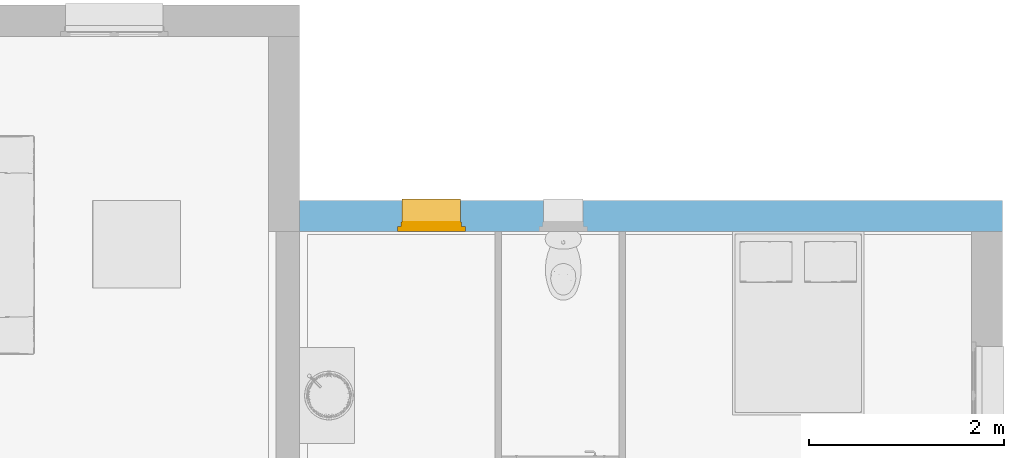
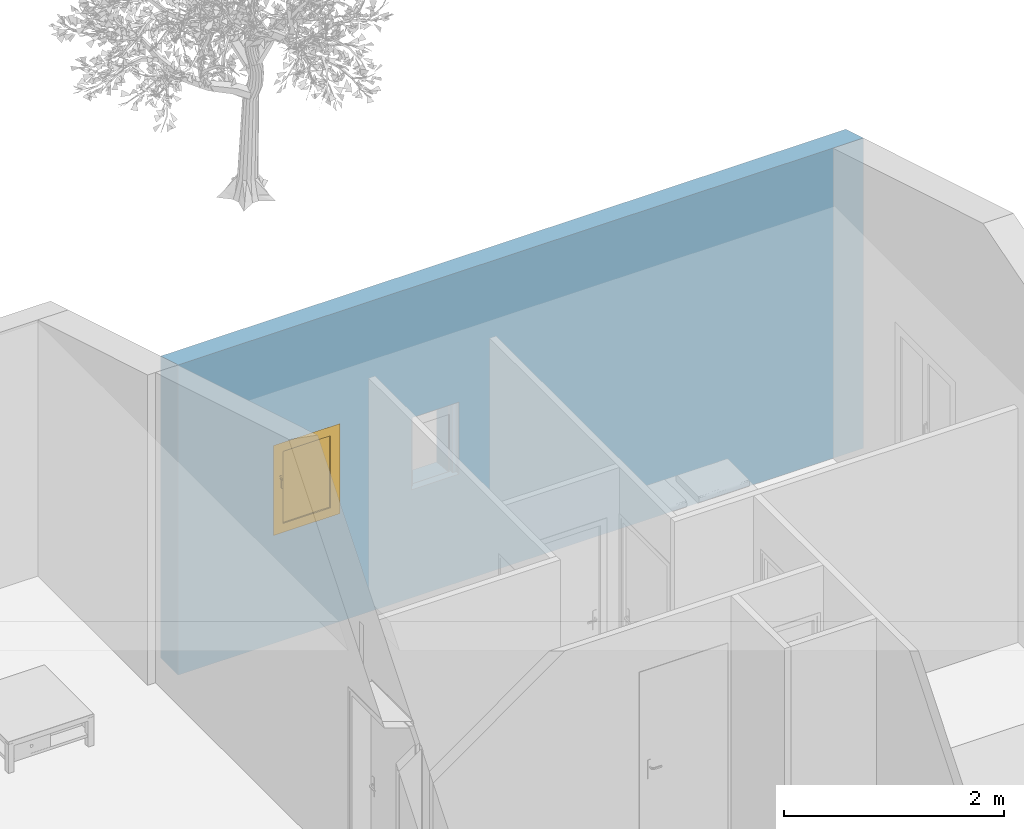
# One storey, part 13 of 18: 1 window, 2 openings, plus 1 element that does not belong to this part.
"""IFC2X3 building model written with IfcOpenShell, lengths in metres."""

import ifcopenshell
import ifcopenshell.guid

model = None  # the IFC model being written
_history = None  # IfcOwnerHistory: only IFC2X3 demands one
_inside = {}  # id of a spatial element -> (the spatial element, [elements in it])
_under = {}  # id of a project, library or spatial element -> (it, [spatial elements below it])
_declared = {}  # id of a project -> (the project, [libraries it declares])
_typed = {}  # id of a type object -> (the type object, [elements of that type])
_made_of = {}  # id of a material, layer set ... -> (it, [elements and type objects made of it])


def new_model(schema):
    """Start an empty IFC model of exactly this schema.

    Asked for "IFC4X3", IfcOpenShell would pick the latest addendum, in which some entities
    have other attributes; the version numbers below select the first issue.
    IFC2X3 requires an IfcOwnerHistory on every rooted entity: one is made here for all.
    """
    global model, _history
    if schema == "IFC4X3":
        model = ifcopenshell.file(schema_version=(4, 3, 0, 0))
    else:
        model = ifcopenshell.file(schema=schema)
    _inside.clear()
    _under.clear()
    _declared.clear()
    _typed.clear()
    _made_of.clear()
    _history = None
    if model.schema == "IFC2X3":
        org = make("IfcOrganization", Name="unknown")
        user = make(
            "IfcPersonAndOrganization",
            ThePerson=make("IfcPerson", FamilyName="unknown"),
            TheOrganization=org,
        )
        app = make(
            "IfcApplication",
            ApplicationDeveloper=org,
            Version="unknown",
            ApplicationFullName="unknown",
            ApplicationIdentifier="unknown",
        )
        _history = make(
            "IfcOwnerHistory",
            OwningUser=user,
            OwningApplication=app,
            ChangeAction="ADDED",
            CreationDate=0,
        )
    return model


def make(cls, **values):
    """One entity of the class cls with the attributes given. An attribute that is None is left unset."""
    return model.create_entity(
        cls, **{name: value for name, value in values.items() if value is not None}
    )


def entity(cls, *values):
    """Any entity or typed value of the class cls, its attributes in the order of the schema. None: left unset."""
    e = model.create_entity(cls)
    for i, value in enumerate(values):
        if value is not None:
            e[i] = value
    return e


def rooted(cls, **values):
    """An entity with a GlobalId (a new one), such as an element, a storey or a relation."""
    return make(cls, GlobalId=ifcopenshell.guid.new(), OwnerHistory=_history, **values)


def si_unit(unit_type, name, prefix=None):
    """IfcSIUnit, for example si_unit("LENGTHUNIT", "METRE", prefix="MILLI")."""
    return make("IfcSIUnit", UnitType=unit_type, Prefix=prefix, Name=name)


def converted_unit(unit_type, name, factor, base, dimensions=None, offset=None):
    """IfcConversionBasedUnit, such as the inch: factor (a typed value) times the base unit."""
    return make(
        "IfcConversionBasedUnit"
        if offset is None
        else "IfcConversionBasedUnitWithOffset",
        ConversionOffset=offset,
        Dimensions=None
        if dimensions is None
        else entity("IfcDimensionalExponents", *dimensions),
        UnitType=unit_type,
        Name=name,
        ConversionFactor=make(
            "IfcMeasureWithUnit", ValueComponent=factor, UnitComponent=base
        ),
    )


def derived_unit(unit_type, elements):
    """IfcDerivedUnit: a product of units, each with its exponent."""
    return make(
        "IfcDerivedUnit",
        Elements=[
            make("IfcDerivedUnitElement", Unit=unit, Exponent=power)
            for unit, power in elements
        ],
        UnitType=unit_type,
    )


def assignment(units):
    """IfcUnitAssignment: the units of a project."""
    return None if units is None else make("IfcUnitAssignment", Units=units)


def point(xyz):
    """IfcCartesianPoint."""
    return None if xyz is None else make("IfcCartesianPoint", Coordinates=xyz)


def direction(xyz):
    """IfcDirection."""
    return None if xyz is None else make("IfcDirection", DirectionRatios=xyz)


def frame(location, z_axis=None, x_axis=None):
    """IfcAxis2Placement3D, a coordinate frame: its origin and axes. An axis left out is left unset."""
    return make(
        "IfcAxis2Placement3D",
        Location=point(location),
        Axis=direction(z_axis),
        RefDirection=direction(x_axis),
    )


def frame_2d(location, x_axis=None):
    """IfcAxis2Placement2D, a coordinate frame in the plane: its origin and x axis."""
    return make(
        "IfcAxis2Placement2D", Location=point(location), RefDirection=direction(x_axis)
    )


def origin():
    """The frame at (0, 0, 0) with its axes left unset."""
    return frame((0.0, 0.0, 0.0))


def place(relative_to, where):
    """IfcLocalPlacement: puts the frame where relative to a parent placement (None: the world)."""
    return make(
        "IfcLocalPlacement", PlacementRelTo=relative_to, RelativePlacement=where
    )


def context(
    kind, dimensions, precision=None, world=None, true_north=None, identifier=None
):
    """IfcGeometricRepresentationContext, for example the 3D "Model" context."""
    return make(
        "IfcGeometricRepresentationContext",
        ContextIdentifier=identifier,
        ContextType=kind,
        CoordinateSpaceDimension=dimensions,
        Precision=precision,
        WorldCoordinateSystem=world,
        TrueNorth=true_north,
    )


def subcontext(parent, identifier, kind, view, scale=None):
    """IfcGeometricRepresentationSubContext, for example "Body" below "Model"."""
    return make(
        "IfcGeometricRepresentationSubContext",
        ContextIdentifier=identifier,
        ContextType=kind,
        ParentContext=parent,
        TargetScale=scale,
        TargetView=view,
    )


def project(units=None, contexts=None):
    """IfcProject with its units and contexts."""
    return rooted(
        "IfcProject",
        Name="project",
        RepresentationContexts=contexts,
        UnitsInContext=assignment(units),
    )


def spatial(cls, under=None, at=None, **own):
    """A site, building, storey or space (cls), placed at a placement, below another one or the project."""
    s = rooted(cls, ObjectPlacement=at, **own)
    if under is not None:
        _under.setdefault(under.id(), (under, []))[1].append(s)
    return s


def polyline(points):
    """IfcPolyline through the points."""
    return make("IfcPolyline", Points=[point(p) for p in points])


def profile(cls, at=None, kind="AREA", **sizes):
    """A parametric profile (cls). Its sizes go by their IFC names, for example OverallWidth=200.0."""
    return make(cls, ProfileType=kind, Position=at, **sizes)


def rectangle(**sizes):
    """IfcRectangleProfileDef."""
    return profile("IfcRectangleProfileDef", **sizes)


def extrude(swept, where, along, depth):
    """IfcExtrudedAreaSolid: the profile swept, set in the frame where, extruded along a direction by depth."""
    return make(
        "IfcExtrudedAreaSolid",
        SweptArea=swept,
        Position=where,
        ExtrudedDirection=direction(along),
        Depth=depth,
    )


def clip(a, b, op="DIFFERENCE"):
    """IfcBooleanClippingResult: the solid a cut by the half space b."""
    return make(
        "IfcBooleanClippingResult", Operator=op, FirstOperand=a, SecondOperand=b
    )


def bounded_halfspace(plane, agree, where, boundary):
    """IfcPolygonalBoundedHalfSpace: a half space limited to a polygon's prism."""
    return make(
        "IfcPolygonalBoundedHalfSpace",
        BaseSurface=make("IfcPlane", Position=plane),
        AgreementFlag=agree,
        Position=where,
        PolygonalBoundary=boundary,
    )


def faces_of(points, faces, orient=None, outer=None):
    """IfcFace entities. A face is a list of loops; a loop is a list of indices into points, from 0.

    orient and outer hold one flag for each loop. By default every Orientation is true, the
    first loop of a face is its IfcFaceOuterBound and the others are IfcFaceBound.
    """
    made = []
    for i, loops in enumerate(faces):
        bounds = []
        for j, loop in enumerate(loops):
            is_outer = j == 0 if outer is None else outer[i][j]
            bounds.append(
                make(
                    "IfcFaceOuterBound" if is_outer else "IfcFaceBound",
                    Bound=make("IfcPolyLoop", Polygon=[points[k] for k in loop]),
                    Orientation=True if orient is None else orient[i][j],
                )
            )
        made.append(make("IfcFace", Bounds=bounds))
    return made


def faceted_brep(points, faces, orient=None, outer=None, voids=None):
    """IfcFacetedBrep: a solid bounded by flat faces; with voids (closed shells), ...WithVoids."""
    shared = [point(p) for p in points]
    hull = make("IfcClosedShell", CfsFaces=faces_of(shared, faces, orient, outer))
    if voids is None:
        return make("IfcFacetedBrep", Outer=hull)
    return make(
        "IfcFacetedBrepWithVoids",
        Outer=hull,
        Voids=[
            make(cls, CfsFaces=faces_of(shared, fs, o, b)) for cls, fs, o, b in voids
        ],
    )


def shape(context_of_items, identifier, shape_type, items):
    """IfcShapeRepresentation: the items that make up one representation, for example the "Body"."""
    return make(
        "IfcShapeRepresentation",
        ContextOfItems=context_of_items,
        RepresentationIdentifier=identifier,
        RepresentationType=shape_type,
        Items=items,
    )


def source(mapping_origin, context_of_items, identifier, shape_type, items):
    """IfcRepresentationMap: a shape defined once, which mapped items show again and again."""
    return make(
        "IfcRepresentationMap",
        MappingOrigin=mapping_origin,
        MappedRepresentation=shape(context_of_items, identifier, shape_type, items),
    )


def transform(
    local_origin,
    x_axis=None,
    y_axis=None,
    z_axis=None,
    scale=None,
    scale2=None,
    scale3=None,
    uniform=True,
):
    """IfcCartesianTransformationOperator3D, or its non-uniform kind. x_axis, y_axis, z_axis: its Axis1, 2, 3."""
    if uniform:
        return make(
            "IfcCartesianTransformationOperator3D",
            Axis1=direction(x_axis),
            Axis2=direction(y_axis),
            LocalOrigin=point(local_origin),
            Scale=scale,
            Axis3=direction(z_axis),
        )
    return make(
        "IfcCartesianTransformationOperator3DnonUniform",
        Axis1=direction(x_axis),
        Axis2=direction(y_axis),
        LocalOrigin=point(local_origin),
        Scale=scale,
        Axis3=direction(z_axis),
        Scale2=scale2,
        Scale3=scale3,
    )


def mapped(mapping_source, mapping_target):
    """IfcMappedItem: shows the shape of a source again, moved by a transform."""
    return make(
        "IfcMappedItem", MappingSource=mapping_source, MappingTarget=mapping_target
    )


def material(Name=None, Category=None):
    """IfcMaterial."""
    return make("IfcMaterial", Name=Name, Category=Category)


def material_list(materials):
    """IfcMaterialList."""
    return make("IfcMaterialList", Materials=materials)


def layer(
    of_material, thickness, ventilated=None, Name=None, Category=None, Priority=None
):
    """IfcMaterialLayer: one layer of a wall or slab, of a material (None: an air gap)."""
    return make(
        "IfcMaterialLayer",
        Material=of_material,
        LayerThickness=thickness,
        IsVentilated=ventilated,
        Name=Name,
        Category=Category,
        Priority=Priority,
    )


def layer_set(layers, Name=None):
    """IfcMaterialLayerSet."""
    return make("IfcMaterialLayerSet", MaterialLayers=layers, LayerSetName=Name)


def layer_usage(for_layer_set, set_direction, sense, offset, extent=None):
    """IfcMaterialLayerSetUsage: how a layer set lies in its element."""
    return make(
        "IfcMaterialLayerSetUsage",
        ForLayerSet=for_layer_set,
        LayerSetDirection=set_direction,
        DirectionSense=sense,
        OffsetFromReferenceLine=offset,
        ReferenceExtent=extent,
    )


def made_of(thing, what):
    """Note that an element or type object is made of a material, layer set ...; save() writes the relation."""
    if what is not None:
        _made_of.setdefault(what.id(), (what, []))[1].append(thing)
    return thing


def type_object(cls, material=None, **own):
    """A type object (cls), such as IfcWallType, which elements share."""
    return made_of(rooted(cls, **own), material)


def type_shapes(of_type, sources):
    """Give a type object the sources (RepresentationMaps) that its elements show as mapped items."""
    of_type.RepresentationMaps = sources


def element(
    cls,
    number,
    at=None,
    inside=None,
    cuts=None,
    type_object=None,
    material=None,
    context=None,
    identifier="Body",
    shape_type=None,
    held_by="IfcProductDefinitionShape",
    body=None,
    shapes=None,
    **own,
):
    """One element of the class cls, such as IfcWall. Its Tag is "e" and its number.

    at: its placement. inside: the storey or other place that contains it. cuts: it is an
    opening in that element (IfcRelVoidsElement). A single representation is given by context,
    identifier, shape_type and body (its items); several are given by shapes. held_by: the class
    of the entity that holds the representations. save() writes the other relations.
    """
    e = rooted(cls, Tag="e%d" % number, ObjectPlacement=at, **own)
    if body is not None:
        shapes = [shape(context, identifier, shape_type, body)]
    if shapes is not None:
        e.Representation = make(held_by, Representations=shapes)
    if inside is not None:
        _inside.setdefault(inside.id(), (inside, []))[1].append(e)
    if cuts is not None:
        rooted(
            "IfcRelVoidsElement", RelatingBuildingElement=cuts, RelatedOpeningElement=e
        )
    if type_object is not None:
        _typed.setdefault(type_object.id(), (type_object, []))[1].append(e)
    return made_of(e, material)


def fill(opening, filler):
    """IfcRelFillsElement: the door or window that sits in an opening."""
    return rooted(
        "IfcRelFillsElement",
        RelatingOpeningElement=opening,
        RelatedBuildingElement=filler,
    )


def aggregate(whole, parts):
    """IfcRelAggregates: a whole, such as a stair, and the parts it consists of."""
    return rooted("IfcRelAggregates", RelatingObject=whole, RelatedObjects=parts)


def save(model, path):
    """Write the relations noted so far, then the file.

    IfcRelAggregates (storeys below a building ...), IfcRelContainedInSpatialStructure (elements
    in a storey), IfcRelDefinesByType, IfcRelAssociatesMaterial and IfcRelDeclares: one each for
    every whole, place, type object, material and project.
    """
    for whole, parts in _under.values():
        aggregate(whole, parts)
    for where, things in _inside.values():
        rooted(
            "IfcRelContainedInSpatialStructure",
            RelatedElements=things,
            RelatingStructure=where,
        )
    for kind, things in _typed.values():
        rooted("IfcRelDefinesByType", RelatedObjects=things, RelatingType=kind)
    for what, things in _made_of.values():
        rooted("IfcRelAssociatesMaterial", RelatedObjects=things, RelatingMaterial=what)
    for by, libraries in _declared.values():
        rooted("IfcRelDeclares", RelatingContext=by, RelatedDefinitions=libraries)
    model.write(path)


model = new_model("IFC2X3")

# Units and contexts
model_context = context("Model", 3, precision=1e-05, world=origin(), true_north=direction((6.12303176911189e-17, 1.0)))
body_context = subcontext(model_context, "Body", "Model", "MODEL_VIEW")
ifc_project = project(units=[si_unit("LENGTHUNIT", "METRE"), si_unit("AREAUNIT", "SQUARE_METRE"), si_unit("VOLUMEUNIT", "CUBIC_METRE"), converted_unit("PLANEANGLEUNIT", "DEGREE", entity("IfcRatioMeasure", 0.0174532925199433), si_unit("PLANEANGLEUNIT", "RADIAN"), dimensions=[0, 0, 0, 0, 0, 0, 0]), si_unit("MASSUNIT", "GRAM", prefix="KILO"), derived_unit("MASSDENSITYUNIT", [(si_unit("MASSUNIT", "GRAM", prefix="KILO"), 1), (si_unit("LENGTHUNIT", "METRE"), -3)]), derived_unit("MOMENTOFINERTIAUNIT", [(si_unit("LENGTHUNIT", "METRE"), 4)]), si_unit("TIMEUNIT", "SECOND"), si_unit("FREQUENCYUNIT", "HERTZ"), si_unit("THERMODYNAMICTEMPERATUREUNIT", "DEGREE_CELSIUS"), derived_unit("THERMALTRANSMITTANCEUNIT", [(si_unit("MASSUNIT", "GRAM", prefix="KILO"), 1), (si_unit("THERMODYNAMICTEMPERATUREUNIT", "KELVIN"), -1), (si_unit("TIMEUNIT", "SECOND"), -3)]), derived_unit("VOLUMETRICFLOWRATEUNIT", [(si_unit("LENGTHUNIT", "METRE"), 3), (si_unit("TIMEUNIT", "SECOND"), -1)]), si_unit("ELECTRICCURRENTUNIT", "AMPERE"), si_unit("ELECTRICVOLTAGEUNIT", "VOLT"), si_unit("POWERUNIT", "WATT"), si_unit("FORCEUNIT", "NEWTON", prefix="KILO"), si_unit("ILLUMINANCEUNIT", "LUX"), si_unit("LUMINOUSFLUXUNIT", "LUMEN"), si_unit("LUMINOUSINTENSITYUNIT", "CANDELA"), derived_unit("USERDEFINED", [(si_unit("MASSUNIT", "GRAM", prefix="KILO"), -1), (si_unit("LENGTHUNIT", "METRE"), -2), (si_unit("TIMEUNIT", "SECOND"), 3), (si_unit("LUMINOUSFLUXUNIT", "LUMEN"), 1)]), derived_unit("LINEARVELOCITYUNIT", [(si_unit("LENGTHUNIT", "METRE"), 1), (si_unit("TIMEUNIT", "SECOND"), -1)]), si_unit("PRESSUREUNIT", "PASCAL"), derived_unit("USERDEFINED", [(si_unit("LENGTHUNIT", "METRE"), -2), (si_unit("MASSUNIT", "GRAM", prefix="KILO"), 1), (si_unit("TIMEUNIT", "SECOND"), -2)]), derived_unit("LINEARFORCEUNIT", [(si_unit("MASSUNIT", "GRAM", prefix="KILO"), 1), (si_unit("LENGTHUNIT", "METRE"), 1), (si_unit("TIMEUNIT", "SECOND"), -2), (si_unit("LENGTHUNIT", "METRE"), -1)]), derived_unit("PLANARFORCEUNIT", [(si_unit("MASSUNIT", "GRAM", prefix="KILO"), 1), (si_unit("LENGTHUNIT", "METRE"), 1), (si_unit("TIMEUNIT", "SECOND"), -2), (si_unit("LENGTHUNIT", "METRE"), -2)])], contexts=[model_context])

# Site, building, storey
site_placement = place(None, origin())
site = spatial("IfcSite", under=ifc_project, at=site_placement, Name="Surface", CompositionType="ELEMENT")
building_placement = place(site_placement, origin())
building = spatial("IfcBuilding", under=site, at=building_placement, CompositionType="ELEMENT")
storey_placement = place(building_placement, origin())
storey = spatial("IfcBuildingStorey", under=building, at=storey_placement, Name="RDC", CompositionType="ELEMENT", Elevation=-1.94916083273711e-14)

# Wall, openings, window
ifc_material_1 = material(Name="Maçonnerie - Enduit")
ifc_layer_1 = layer(ifc_material_1, 0.02)
ifc_material_2 = material(Name="Blocs béton manufacturés")
ifc_layer_2 = layer(ifc_material_2, 0.2)
ifc_material_3 = material(Name="Maçonnerie - Isolant")
ifc_layer_3 = layer(ifc_material_3, 0.1)
ifc_layer_set = layer_set([ifc_layer_1, ifc_layer_2, ifc_layer_3], Name="Mur de base:Ext. Parpaing 20 + Isolant 10")
ifc_layer_usage = layer_usage(ifc_layer_set, "AXIS2", "NEGATIVE", 0.16)
wall_type = type_object("IfcWallType", Name="Mur de base:Ext. Parpaing 20 + Isolant 10", PredefinedType="STANDARD", material=ifc_layer_set)
wall_placement = place(storey_placement, frame((-11.1082926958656, 6.82737977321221, 0.0)))
wall = element("IfcWallStandardCase", 1, at=wall_placement, inside=storey, type_object=wall_type, material=ifc_layer_usage, Name="Mur de base:Ext. Parpaing 20 + Isolant 10", ObjectType="Mur de base:Ext. Parpaing 20 + Isolant 10", context=body_context, shape_type="Clipping", body=[
    clip(extrude(rectangle(XDim=7.2, YDim=0.320000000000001, at=frame_2d((3.6, 0.0), x_axis=(-1.0, 0.0))), origin(), (0.0, 0.0, 1.0), 3.44600000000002), bounded_halfspace(frame((0.0, -0.159999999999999, 3.44600000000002), z_axis=(0.0, 0.287347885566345, 0.957826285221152), x_axis=(-1.0, 0.0, 0.0)), False, frame((0.0, -0.159999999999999, 3.44600000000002)), polyline([(0.0, 0.0), (6.88, 0.0), (7.2, 0.0), (7.2, 0.32), (0.0, 0.32), (0.0, 0.0)]))),
])
opening_1_placement = place(wall_placement, frame((1.0, -0.500000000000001, 1.1240395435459)))
opening_1 = element("IfcOpeningElement", 2, at=opening_1_placement, cuts=wall, Name="Mur de base:Ext. Parpaing 20 + Isolant 10", ObjectType="Opening", context=body_context, shape_type="Brep", body=[
    faceted_brep([(0.0499999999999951, 0.419999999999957, 0.0759604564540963), (0.0499999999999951, 0.440000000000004, 0.0759604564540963), (0.0499999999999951, 0.440000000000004, 1.0259604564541), (0.0499999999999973, 1.0, 1.0259604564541), (0.0499999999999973, 1.0, 0.0), (0.0499999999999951, 0.419999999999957, 0.0609604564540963), (0.649999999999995, 0.0, 0.0759604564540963), (0.649999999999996, 0.340000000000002, 0.0759604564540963), (0.649999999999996, 0.340000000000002, 1.0259604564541), (0.649999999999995, 0.0, 1.0259604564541), (0.0499999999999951, 0.0, 0.0759604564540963), (0.0499999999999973, 0.340000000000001, 0.0759604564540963), (0.0, 0.340000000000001, 0.0759604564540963), (0.0, 0.39, 0.0759604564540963), (0.0399999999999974, 0.39, 0.0759604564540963), (0.0399999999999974, 0.440000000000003, 0.0759604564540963), (0.649999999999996, 0.419999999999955, 0.0759604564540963), (0.649999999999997, 0.440000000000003, 0.0759604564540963), (0.659999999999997, 0.440000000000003, 0.0759604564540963), (0.659999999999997, 0.39, 0.0759604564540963), (0.699999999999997, 0.39, 0.0759604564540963), (0.699999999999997, 0.340000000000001, 0.0759604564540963), (0.0499999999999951, 0.0, 1.0259604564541), (0.649999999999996, 0.440000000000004, 1.0259604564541), (0.649999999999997, 1.0, 1.0259604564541), (0.649999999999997, 1.0, 0.0), (0.649999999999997, 0.419999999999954, 0.0609604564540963), (0.0, 0.340000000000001, 1.0759604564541), (0.0, 0.39, 1.0759604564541), (0.699999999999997, 0.39, 1.0759604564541), (0.659999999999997, 0.39, 1.0359604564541), (0.0399999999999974, 0.39, 1.0359604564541), (0.0399999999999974, 0.440000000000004, 1.0359604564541), (0.659999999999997, 0.440000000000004, 1.0359604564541), (0.0499999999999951, 0.340000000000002, 1.0259604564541), (0.699999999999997, 0.340000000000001, 1.0759604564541)], [[[0, 1, 2, 3, 4, 5]], [[6, 7, 8, 9]], [[10, 11, 12, 13, 14, 15, 1, 0, 16, 17, 18, 19, 20, 21, 7, 6]], [[10, 6, 9, 22]], [[3, 2, 23, 24]], [[3, 24, 25, 4]], [[4, 25, 26, 5]], [[5, 26, 16, 0]], [[12, 27, 28, 13]], [[13, 28, 29, 20, 19, 30, 31, 14]], [[14, 31, 32, 15]], [[15, 32, 33, 18, 17, 23, 2, 1]], [[11, 34, 8, 7, 21, 35, 27, 12]], [[27, 35, 29, 28]], [[30, 33, 32, 31]], [[29, 35, 21, 20]], [[19, 18, 33, 30]], [[9, 8, 34, 22]], [[24, 23, 17, 16, 26, 25]], [[22, 34, 11, 10]]]),
])
opening_2_placement = place(wall_placement, frame((2.45, -0.500000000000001, 1.1240395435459)))
element("IfcOpeningElement", 3, at=opening_2_placement, cuts=wall, Name="Mur de base:Ext. Parpaing 20 + Isolant 10", ObjectType="Opening", context=body_context, shape_type="Brep", body=[
    faceted_brep([(0.0500000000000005, 0.419999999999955, 0.075960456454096), (0.0500000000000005, 0.440000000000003, 0.075960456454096), (0.0500000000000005, 0.440000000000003, 0.825960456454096), (0.0500000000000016, 1.0, 0.825960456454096), (0.0500000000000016, 1.0, 0.0), (0.0500000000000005, 0.419999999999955, 0.0609604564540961), (0.45, 0.0, 0.075960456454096), (0.450000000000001, 0.340000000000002, 0.075960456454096), (0.450000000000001, 0.340000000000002, 0.825960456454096), (0.45, 0.0, 0.825960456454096), (0.0499999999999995, 0.0, 0.075960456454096), (0.0499999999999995, 0.340000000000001, 0.075960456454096), (0.0, 0.340000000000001, 0.075960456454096), (0.0, 0.39, 0.075960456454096), (0.0399999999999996, 0.39, 0.075960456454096), (0.0399999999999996, 0.440000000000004, 0.075960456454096), (0.450000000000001, 0.419999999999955, 0.0759604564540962), (0.45, 0.440000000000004, 0.075960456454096), (0.459999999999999, 0.440000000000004, 0.075960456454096), (0.459999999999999, 0.39, 0.075960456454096), (0.499999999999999, 0.39, 0.075960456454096), (0.499999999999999, 0.340000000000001, 0.075960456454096), (0.0499999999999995, 0.0, 0.825960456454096), (0.450000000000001, 0.440000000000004, 0.825960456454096), (0.450000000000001, 1.0, 0.825960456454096), (0.450000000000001, 1.0, 0.0), (0.45, 0.419999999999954, 0.0609604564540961), (0.0, 0.340000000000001, 0.875960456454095), (0.0, 0.39, 0.875960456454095), (0.499999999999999, 0.39, 0.875960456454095), (0.46, 0.39, 0.835960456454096), (0.0399999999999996, 0.39, 0.835960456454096), (0.0399999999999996, 0.440000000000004, 0.835960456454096), (0.459999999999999, 0.440000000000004, 0.835960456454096), (0.0499999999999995, 0.340000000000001, 0.825960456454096), (0.5, 0.340000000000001, 0.875960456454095)], [[[0, 1, 2, 3, 4, 5]], [[6, 7, 8, 9]], [[10, 11, 12, 13, 14, 15, 1, 0, 16, 17, 18, 19, 20, 21, 7, 6]], [[10, 6, 9, 22]], [[3, 2, 23, 24]], [[3, 24, 25, 4]], [[4, 25, 26, 5]], [[5, 26, 16, 0]], [[12, 27, 28, 13]], [[13, 28, 29, 20, 19, 30, 31, 14]], [[14, 31, 32, 15]], [[15, 32, 33, 18, 17, 23, 2, 1]], [[11, 34, 8, 7, 21, 35, 27, 12]], [[27, 35, 29, 28]], [[30, 33, 32, 31]], [[29, 35, 21, 20]], [[19, 18, 33, 30]], [[9, 8, 34, 22]], [[24, 23, 17, 16, 26, 25]], [[22, 34, 11, 10]]]),
])
ifc_material_4 = material(Name="Fenêtre - Poignée")
ifc_material_5 = material(Name="Fenêtre - Appui")
ifc_material_6 = material(Name="Fenêtre - Vitrage")
ifc_material_7 = material(Name="Fenêtre - Cadre")
ifc_material_list_1 = material_list([ifc_material_4, ifc_material_5, ifc_material_6, ifc_material_7])
ifc_material_list_2 = material_list([ifc_material_4, ifc_material_7, ifc_material_5, ifc_material_7, ifc_material_6])
window_style = type_object("IfcWindowStyle", Name="1 Vantail - Droit:0.60 m x 0.95 m - Appui en aluminium", ConstructionType="NOTDEFINED", OperationType="SINGLE_PANEL", ParameterTakesPrecedence=False, Sizeable=False, material=ifc_material_list_2)
shared_shape = source(origin(), body_context, "Body", "Brep", [
    faceted_brep([(0.0806460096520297, -0.66600000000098, 0.697994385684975), (0.08203392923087, -0.66600000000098, 0.696606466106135), (0.08203392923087, -0.66600000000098, 0.68529275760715), (0.0806676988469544, -0.66600000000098, 0.683926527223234), (0.0693323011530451, -0.66600000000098, 0.683926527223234), (0.0679660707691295, -0.66600000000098, 0.68529275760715), (0.0679660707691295, -0.66600000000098, 0.696606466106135), (0.0693539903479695, -0.66600000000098, 0.697994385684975), (0.0806460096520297, -0.678913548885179, 0.697994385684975), (0.08203392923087, -0.67833865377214, 0.696606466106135), (0.08203392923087, -0.69164600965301, 0.683299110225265), (0.08203392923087, -0.691646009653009, 0.595960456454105), (0.08203392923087, -0.680332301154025, 0.595960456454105), (0.08203392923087, -0.680332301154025, 0.67861281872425), (0.08203392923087, -0.673652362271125, 0.68529275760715), (0.0806676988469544, -0.673086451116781, 0.683926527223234), (0.0693323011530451, -0.673086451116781, 0.683926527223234), (0.0679660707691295, -0.673652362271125, 0.68529275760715), (0.0679660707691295, -0.680332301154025, 0.67861281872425), (0.0679660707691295, -0.680332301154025, 0.595960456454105), (0.0679660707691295, -0.691646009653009, 0.595960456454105), (0.0679660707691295, -0.69164600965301, 0.683299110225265), (0.0679660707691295, -0.67833865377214, 0.696606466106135), (0.0693539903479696, -0.678913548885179, 0.697994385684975), (0.0806460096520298, -0.69303392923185, 0.683874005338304), (0.0806676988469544, -0.678966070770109, 0.678046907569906), (0.0693323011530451, -0.678966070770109, 0.678046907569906), (0.0693539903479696, -0.69303392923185, 0.683874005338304), (0.0806460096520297, -0.69303392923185, 0.595960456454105), (0.0693539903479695, -0.69303392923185, 0.595960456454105), (0.0693323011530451, -0.678966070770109, 0.595960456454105), (0.0806676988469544, -0.678966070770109, 0.595960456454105)], [[[0, 1, 2, 3, 4, 5, 6, 7]], [[1, 0, 8, 9]], [[2, 1, 9, 10, 11, 12, 13, 14]], [[3, 2, 14, 15]], [[4, 3, 15, 16]], [[5, 4, 16, 17]], [[6, 5, 17, 18, 19, 20, 21, 22]], [[7, 6, 22, 23]], [[0, 7, 23, 8]], [[9, 8, 24, 10]], [[15, 14, 13, 25]], [[16, 15, 25, 26]], [[17, 16, 26, 18]], [[23, 22, 21, 27]], [[8, 23, 27, 24]], [[28, 29, 20, 19, 30, 31, 12, 11]], [[10, 24, 28, 11]], [[25, 13, 12, 31]], [[26, 25, 31, 30]], [[18, 26, 30, 19]], [[27, 21, 20, 29]], [[24, 27, 29, 28]]]),
    faceted_brep([(0.0820000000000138, -0.666000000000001, 0.715960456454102), (0.0679999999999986, -0.666000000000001, 0.715960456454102), (0.0629999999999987, -0.666000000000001, 0.710960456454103), (0.0629999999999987, -0.666000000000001, 0.640960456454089), (0.0679999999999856, -0.666000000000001, 0.635960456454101), (0.0820000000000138, -0.666000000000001, 0.635960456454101), (0.0869999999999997, -0.666000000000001, 0.640960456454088), (0.0869999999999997, -0.666000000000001, 0.710960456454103), (0.0820000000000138, -0.660000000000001, 0.715960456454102), (0.0869999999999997, -0.660000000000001, 0.710960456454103), (0.0869999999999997, -0.660000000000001, 0.640960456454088), (0.0820000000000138, -0.660000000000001, 0.635960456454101), (0.0679999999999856, -0.660000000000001, 0.635960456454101), (0.0629999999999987, -0.660000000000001, 0.640960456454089), (0.0629999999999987, -0.660000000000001, 0.710960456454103), (0.0679999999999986, -0.660000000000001, 0.715960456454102)], [[[0, 1, 2, 3, 4, 5, 6, 7]], [[8, 9, 10, 11, 12, 13, 14, 15]], [[1, 0, 8, 15]], [[2, 1, 15, 14]], [[3, 2, 14, 13]], [[4, 3, 13, 12]], [[5, 4, 12, 11]], [[6, 5, 11, 10]], [[7, 6, 10, 9]], [[0, 7, 9, 8]]]),
    faceted_brep([(0.649999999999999, -0.324999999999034, 0.0394140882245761), (0.649999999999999, -0.574999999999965, 0.0656901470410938), (0.649999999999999, -0.574999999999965, 0.0759604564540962), (0.649999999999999, -0.579999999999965, 0.0759604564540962), (0.649999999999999, -0.579999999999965, 0.0609604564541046), (0.649999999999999, -0.329999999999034, 0.0346843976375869), (0.649999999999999, -0.329999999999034, 0.0243838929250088), (0.649999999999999, -0.324999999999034, 0.0238583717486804), (0.0499999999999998, -0.324999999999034, 0.0394140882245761), (0.0499999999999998, -0.324999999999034, 0.0238583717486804), (0.0499999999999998, -0.329999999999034, 0.0243838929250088), (0.0499999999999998, -0.329999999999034, 0.0346843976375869), (0.0499999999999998, -0.579999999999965, 0.0609604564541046), (0.0499999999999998, -0.579999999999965, 0.0759604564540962), (0.0499999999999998, -0.574999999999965, 0.0759604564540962), (0.0499999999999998, -0.574999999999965, 0.0656901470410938)], [[[0, 1, 2, 3, 4, 5, 6, 7]], [[8, 9, 10, 11, 12, 13, 14, 15]], [[1, 0, 8, 15]], [[2, 1, 15, 14]], [[3, 2, 14, 13]], [[4, 3, 13, 12]], [[5, 4, 12, 11]], [[6, 5, 11, 10]], [[7, 6, 10, 9]], [[0, 7, 9, 8]]]),
    faceted_brep([(0.05, -0.324999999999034, 0.0408400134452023), (0.05, -0.324999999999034, 0.0394140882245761), (0.0499999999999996, -0.574999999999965, 0.0656901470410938), (0.0499999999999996, -0.574999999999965, 0.0707176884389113), (0.05, -0.328581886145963, 0.0448181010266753), (0.05, -0.326027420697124, 0.0435165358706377), (0.0549999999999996, -0.574999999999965, 0.0707176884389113), (0.0549999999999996, -0.574999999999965, 0.0656901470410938), (0.055, -0.324999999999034, 0.0394140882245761), (0.055, -0.324999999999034, 0.0408400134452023), (0.055, -0.326027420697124, 0.0435165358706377), (0.055, -0.328581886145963, 0.0448181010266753)], [[[0, 1, 2, 3, 4, 5]], [[6, 7, 8, 9, 10, 11]], [[2, 1, 8, 7]], [[3, 2, 7, 6]], [[4, 3, 6, 11]], [[4, 11, 10, 5]], [[10, 9, 0, 5]], [[1, 0, 9, 8]]]),
    faceted_brep([(0.645, -0.324999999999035, 0.0408400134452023), (0.645, -0.324999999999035, 0.0394140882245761), (0.644999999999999, -0.574999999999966, 0.0656901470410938), (0.644999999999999, -0.574999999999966, 0.0707176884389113), (0.645, -0.328581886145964, 0.0448181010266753), (0.645, -0.326027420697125, 0.0435165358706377), (0.649999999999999, -0.574999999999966, 0.0707176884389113), (0.649999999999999, -0.574999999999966, 0.0656901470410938), (0.65, -0.324999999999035, 0.0394140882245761), (0.65, -0.324999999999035, 0.0408400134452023), (0.65, -0.326027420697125, 0.0435165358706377), (0.65, -0.328581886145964, 0.0448181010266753)], [[[0, 1, 2, 3, 4, 5]], [[6, 7, 8, 9, 10, 11]], [[2, 1, 8, 7]], [[3, 2, 7, 6]], [[4, 3, 6, 11]], [[4, 11, 10, 5]], [[10, 9, 0, 5]], [[1, 0, 9, 8]]]),
    faceted_brep([(0.0999999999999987, -0.634000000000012, 0.175960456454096), (0.0999999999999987, -0.634000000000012, 0.975960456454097), (0.6, -0.634000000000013, 0.975960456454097), (0.6, -0.634000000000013, 0.175960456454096), (0.0999999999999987, -0.646000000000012, 0.175960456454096), (0.0999999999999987, -0.646000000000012, 0.975960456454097), (0.6, -0.646000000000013, 0.975960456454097), (0.6, -0.646000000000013, 0.175960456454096)], [[[0, 1, 2, 3]], [[1, 0, 4, 5]], [[3, 2, 6, 7]], [[0, 3, 7, 4]], [[4, 7, 6, 5]], [[2, 1, 5, 6]]]),
    faceted_brep([(0.099999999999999, -0.620000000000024, 0.975960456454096), (0.0999999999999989, -0.660000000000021, 0.975960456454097), (0.0999999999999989, -0.660000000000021, 0.175960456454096), (0.0999999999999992, -0.620000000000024, 0.175960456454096), (0.599999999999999, -0.660000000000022, 0.175960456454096), (0.6, -0.620000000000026, 0.175960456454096), (0.599999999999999, -0.660000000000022, 0.975960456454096), (0.649999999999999, -0.660000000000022, 0.125960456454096), (0.649999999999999, -0.660000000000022, 1.0259604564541), (0.0499999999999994, -0.660000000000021, 1.0259604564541), (0.0499999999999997, -0.660000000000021, 0.125960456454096), (0.6, -0.620000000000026, 0.975960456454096), (0.0499999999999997, -0.620000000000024, 0.125960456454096), (0.0499999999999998, -0.620000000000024, 1.0259604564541), (0.649999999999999, -0.620000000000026, 1.0259604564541), (0.649999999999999, -0.620000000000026, 0.125960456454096)], [[[0, 1, 2, 3]], [[3, 2, 4, 5]], [[2, 1, 6, 4], [7, 8, 9, 10]], [[5, 4, 6, 11]], [[5, 11, 0, 3], [12, 13, 14, 15]], [[9, 13, 12, 10]], [[10, 12, 15, 7]], [[7, 15, 14, 8]], [[11, 6, 1, 0]], [[8, 14, 13, 9]]], outer=[[True], [True], [False, True], [True], [False, True], [True], [True], [True], [True], [True]]),
    faceted_brep([(0.0, -0.660000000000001, 0.0759604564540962), (0.0, -0.610000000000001, 0.0759604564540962), (0.0499999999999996, -0.610000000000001, 0.0759604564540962), (0.0499999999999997, -0.560000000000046, 0.0759604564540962), (0.649999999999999, -0.560000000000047, 0.0759604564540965), (0.649999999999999, -0.610000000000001, 0.0759604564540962), (0.699999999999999, -0.610000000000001, 0.0759604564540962), (0.699999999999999, -0.660000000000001, 0.0759604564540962), (0.0, -0.660000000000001, 1.0759604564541), (0.0, -0.610000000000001, 1.0759604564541), (0.699999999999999, -0.610000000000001, 1.0759604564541), (0.649999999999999, -0.610000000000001, 0.115336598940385), (0.0499999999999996, -0.610000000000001, 0.1153365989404), (0.0649999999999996, -0.610000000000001, 1.0109604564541), (0.0649999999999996, -0.610000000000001, 0.140960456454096), (0.634999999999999, -0.610000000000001, 0.140960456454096), (0.634999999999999, -0.610000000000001, 1.0109604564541), (0.0499999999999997, -0.550000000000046, 0.0992596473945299), (0.0499999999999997, -0.550000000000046, 0.0709604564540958), (0.0499999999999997, -0.560000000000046, 0.0709604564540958), (0.649999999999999, -0.560000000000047, 0.0709604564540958), (0.649999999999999, -0.550000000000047, 0.0709604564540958), (0.649999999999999, -0.550000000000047, 0.0992596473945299), (0.699999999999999, -0.660000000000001, 1.0759604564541), (0.649999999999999, -0.660000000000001, 1.0259604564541), (0.649999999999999, -0.660000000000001, 0.125960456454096), (0.0499999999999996, -0.660000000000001, 0.125960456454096), (0.0499999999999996, -0.660000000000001, 1.0259604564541), (0.0649999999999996, -0.620000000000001, 1.0109604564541), (0.0649999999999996, -0.620000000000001, 0.140960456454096), (0.634999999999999, -0.620000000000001, 0.140960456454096), (0.634999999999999, -0.620000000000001, 1.0109604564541), (0.649999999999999, -0.620000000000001, 1.0259604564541), (0.0499999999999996, -0.620000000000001, 1.0259604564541), (0.0499999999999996, -0.620000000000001, 0.125960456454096), (0.649999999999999, -0.620000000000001, 0.125960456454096)], [[[0, 1, 2, 3, 4, 5, 6, 7]], [[1, 0, 8, 9]], [[1, 9, 10, 6, 5, 11, 12, 2], [13, 14, 15, 16]], [[12, 17, 18, 19, 3, 2]], [[3, 19, 20, 4]], [[4, 20, 21, 22, 11, 5]], [[6, 10, 23, 7]], [[0, 7, 23, 8], [24, 25, 26, 27]], [[13, 28, 29, 14]], [[29, 30, 15, 14]], [[31, 16, 15, 30]], [[17, 12, 11, 22]], [[32, 33, 34, 35], [28, 31, 30, 29]], [[34, 33, 27, 26]], [[26, 25, 35, 34]], [[24, 32, 35, 25]], [[18, 17, 22, 21]], [[19, 18, 21, 20]], [[13, 16, 31, 28]], [[33, 32, 24, 27]], [[10, 9, 8, 23]]]),
    faceted_brep([(0.0499999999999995, -0.559999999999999, 0.0759604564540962), (0.0499999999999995, -0.610000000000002, 0.0759604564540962), (0.0399999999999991, -0.610000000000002, 0.0759604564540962), (0.0399999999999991, -0.559999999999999, 0.0759604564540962), (0.0499999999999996, -0.559999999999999, 1.0259604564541), (0.0499999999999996, -0.610000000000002, 1.0259604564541), (0.649999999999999, -0.610000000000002, 1.0259604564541), (0.649999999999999, -0.610000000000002, 0.0759604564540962), (0.66, -0.610000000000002, 0.0759604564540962), (0.66, -0.610000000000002, 1.0359604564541), (0.0399999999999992, -0.610000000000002, 1.0359604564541), (0.0399999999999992, -0.559999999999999, 1.0359604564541), (0.66, -0.559999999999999, 1.0359604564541), (0.66, -0.559999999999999, 0.0759604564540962), (0.649999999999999, -0.559999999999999, 0.0759604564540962), (0.649999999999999, -0.559999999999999, 1.0259604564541)], [[[0, 1, 2, 3]], [[1, 0, 4, 5]], [[2, 1, 5, 6, 7, 8, 9, 10]], [[3, 2, 10, 11]], [[0, 3, 11, 12, 13, 14, 15, 4]], [[6, 15, 14, 7]], [[14, 13, 8, 7]], [[12, 9, 8, 13]], [[5, 4, 15, 6]], [[11, 10, 9, 12]]]),
])
type_shapes(window_style, [shared_shape])
window_placement = place(opening_1_placement, frame((0.0, 1.0, 0.0)))
window = element("IfcWindow", 4, at=window_placement, inside=storey, type_object=window_style, material=ifc_material_list_1, Name="1 Vantail - Droit:0.60 m x 0.95 m - Appui en aluminium", ObjectType="1 Vantail - Droit:0.60 m x 0.95 m - Appui en aluminium", OverallHeight=1.08, OverallWidth=0.699999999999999, context=body_context, shape_type="MappedRepresentation", body=[
    mapped(shared_shape, transform((0.0, 0.0, 0.0), scale=1.0)),
])
fill(opening_1, window)

save(model, "model.ifc")
